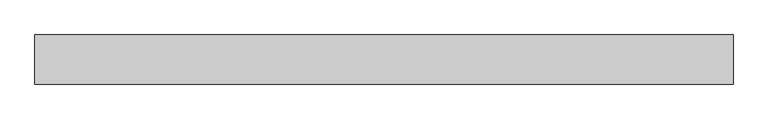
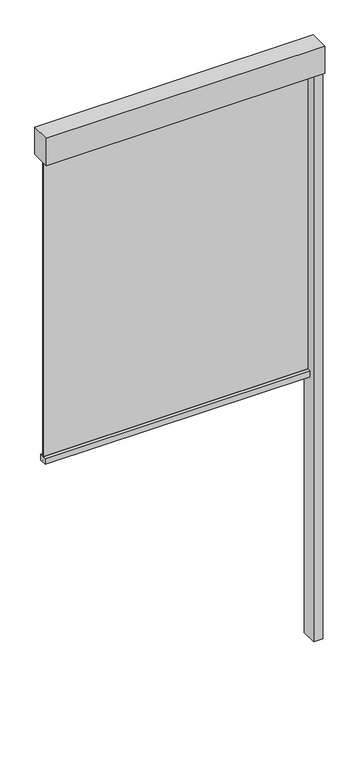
"""IFC4 building model written with IfcOpenShell, lengths in millimetres: proxy geometry, Renson_Fixscreen_Minimal_CW50_End : For curtain wall - End element - Access downwards - Fabric close to the window."""

from ifc_helpers import new_model, si_unit, point, frame, frame_2d, origin, origin_with_axes, place, context, project, spatial, polyline, circle_curve, trimmed, segment, composite_curve, outline, extrude, source, transform, mapped, element, save


def generic_models_1de3ce15(model_context):
    return source(origin(), model_context, "Body", "SweptSolid", [
        extrude(outline(polyline([(530.0, -693.5959909), (530.0, -783.5959909), (480.0, -783.5959909), (480.0, -693.5959909), (530.0, -693.5959909)])), origin_with_axes(), (0.0, 0.0, 1.0), 3340.0),
        extrude(outline(polyline([(-1020.0, -693.5959909), (530.0, -693.5959909), (530.0, -803.5959909), (-1020.0, -803.5959909), (-1020.0, -693.5959909)])), frame((0.0, 0.0, 3340.0), z_axis=(0.0, 0.0, 1.0), x_axis=(1.0, 0.0, 0.0)), (0.0, 0.0, 1.0), 160.0),
        extrude(outline(composite_curve([segment(polyline([(-708.5959909, 1540.0), (-749.0958874, 1540.0), (-749.0958874, 1574.1156826), (-731.9717779, 1575.0000198)]), True, "CONTINUOUS"), segment(trimmed(circle_curve(frame_2d((-731.9459909, 1574.5006852)), 0.5), [point((-731.9717779, 1575.0000198))], [point((-731.4459909, 1574.5006852))], False, "CARTESIAN"), True, "CONTINUOUS"), segment(polyline([(-731.4459909, 1574.5006852), (-731.4459909, 1573.5367989), (-732.7111292, 1573.5367989), (-731.9708257, 1569.0119223)]), True, "CONTINUOUS"), segment(trimmed(circle_curve(frame_2d((-771.4459909, 1562.5534911)), 40.0), [point((-731.9708257, 1569.0119223))], [point((-731.4459909, 1562.5534911))], False, "CARTESIAN"), True, "CONTINUOUS"), segment(polyline([(-731.4459909, 1562.5534911), (-731.4459909, 1554.5006852)]), True, "CONTINUOUS"), segment(trimmed(circle_curve(frame_2d((-729.4459909, 1554.5006852)), 2.0), [point((-731.4459909, 1554.5006852))], [point((-729.4459909, 1552.5006852))], True, "CARTESIAN"), True, "CONTINUOUS"), segment(polyline([(-729.4459909, 1552.5006852), (-727.7459909, 1552.5006852)]), True, "CONTINUOUS"), segment(trimmed(circle_curve(frame_2d((-727.7459909, 1554.5006852)), 2.0), [point((-727.7459909, 1552.5006852))], [point((-725.7459909, 1554.5006852))], True, "CARTESIAN"), True, "CONTINUOUS"), segment(polyline([(-725.7459909, 1554.5006852), (-725.7459909, 1562.5534911)]), True, "CONTINUOUS"), segment(trimmed(circle_curve(frame_2d((-685.7459909, 1562.5534911)), 40.0), [point((-725.7459909, 1562.5534911))], [point((-725.221156, 1569.0119223))], False, "CARTESIAN"), True, "CONTINUOUS"), segment(polyline([(-725.221156, 1569.0119223), (-724.4808525, 1573.5367989), (-725.7459909, 1573.5367989), (-725.7459909, 1574.5006852)]), True, "CONTINUOUS"), segment(trimmed(circle_curve(frame_2d((-725.2459909, 1574.5006852)), 0.5), [point((-725.7459909, 1574.5006852))], [point((-725.2194276, 1574.9999791))], False, "CARTESIAN"), True, "CONTINUOUS"), segment(polyline([(-725.2194276, 1574.9999791), (-708.5959909, 1574.1156826), (-708.5959909, 1540.0)]), True, "CONTINUOUS")], self_intersect=False)), frame((-995.0, 0.0, 0.0), z_axis=(1.0, 0.0, 0.0), x_axis=(0.0, 1.0, 0.0)), (0.0, 0.0, 1.0), 1475.0),
        extrude(outline(polyline([(-995.0, -730.0959909), (-995.0, -727.0959909), (480.0, -727.0959909), (480.0, -730.0959909), (-995.0, -730.0959909)])), frame((0.0, 0.0, 1552.5006852), z_axis=(0.0, 0.0, 1.0), x_axis=(1.0, 0.0, 0.0)), (0.0, 0.0, 1.0), 1787.4993148),
    ])


if __name__ == "__main__":
    model = new_model("IFC4")
    model_context = context("Model", 3, world=origin())
    ifc_project = project(units=[si_unit("LENGTHUNIT", "METRE", prefix="MILLI")], contexts=[model_context])
    site = spatial("IfcSite", under=ifc_project)
    building = spatial("IfcBuilding", under=site)
    placement = place(None, origin())
    generic_models_shape = generic_models_1de3ce15(model_context)
    element("IfcBuildingElementProxy", 1, Name="Renson_Fixscreen_Minimal_CW50_End : For curtain wall - End element - Access downwards - Fabric close to the window", ObjectType="Renson_Fixscreen_Minimal_CW50_End : For curtain wall - End element - Access downwards - Fabric close to the window", at=placement, inside=building, context=model_context, shape_type="MappedRepresentation", body=[
        mapped(generic_models_shape, transform((0.0, 0.0, 0.0), x_axis=(1.0, 0.0, 0.0), y_axis=(0.0, 1.0, 0.0), z_axis=(0.0, 0.0, 1.0))),
    ])
    save(model, "model.ifc")
